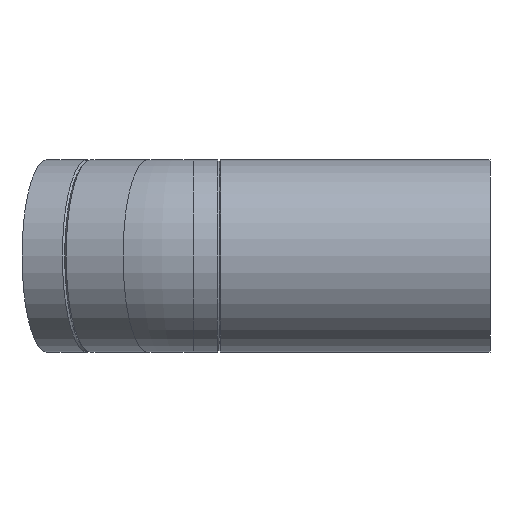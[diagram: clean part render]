
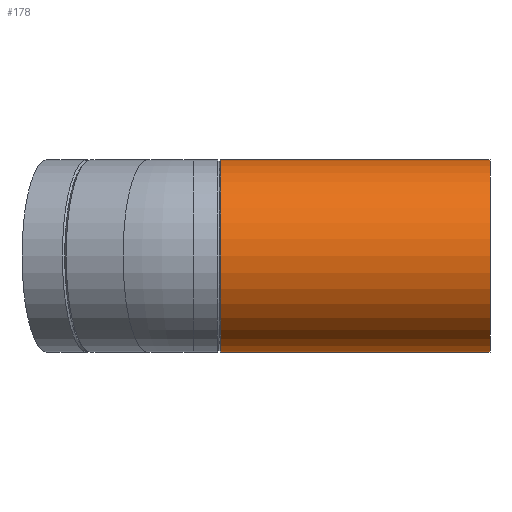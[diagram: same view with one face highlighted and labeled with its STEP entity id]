
A CAD part, left-side view. The second image highlights one B-rep face of the part: STEP entity #178.
In plain terms, the highlighted cylindrical face has radius 55 mm (diameter 110 mm), a full revolution.
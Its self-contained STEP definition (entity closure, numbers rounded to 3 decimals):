
#21=CYLINDRICAL_SURFACE($,#208,55.);
#33=FACE_BOUND($,#73,.T.);
#49=FACE_OUTER_BOUND($,#72,.T.);
#72=EDGE_LOOP($,(#142));
#73=EDGE_LOOP($,(#143));
#83=CIRCLE($,#193,55.);
#91=CIRCLE($,#209,55.);
#97=VERTEX_POINT($,#285);
#105=VERTEX_POINT($,#309);
#111=EDGE_CURVE($,#97,#97,#83,.T.);
#119=EDGE_CURVE($,#105,#105,#91,.T.);
#142=ORIENTED_EDGE($,*,*,#111,.T.);
#143=ORIENTED_EDGE($,*,*,#119,.F.);
#178=ADVANCED_FACE($,(#49,#33),#21,.T.);
#193=AXIS2_PLACEMENT_3D($,#286,#232,#233);
#208=AXIS2_PLACEMENT_3D($,#308,#262,#263);
#209=AXIS2_PLACEMENT_3D($,#310,#264,#265);
#232=DIRECTION('center_axis',(0.,-1.,0.));
#233=DIRECTION('ref_axis',(1.,0.,0.));
#262=DIRECTION('center_axis',(0.,1.,0.));
#263=DIRECTION('ref_axis',(1.,0.,0.));
#264=DIRECTION('center_axis',(0.,-1.,0.));
#265=DIRECTION('ref_axis',(1.,0.,0.));
#285=CARTESIAN_POINT('',(-55.,153.9,0.));
#286=CARTESIAN_POINT('Origin',(0.,153.9,0.));
#308=CARTESIAN_POINT('Origin',(0.,0.,0.));
#309=CARTESIAN_POINT('',(-55.,0.,0.));
#310=CARTESIAN_POINT('Origin',(0.,0.,0.));
